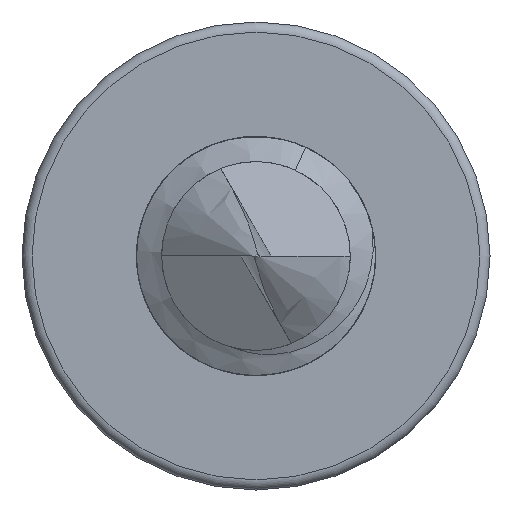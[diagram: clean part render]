
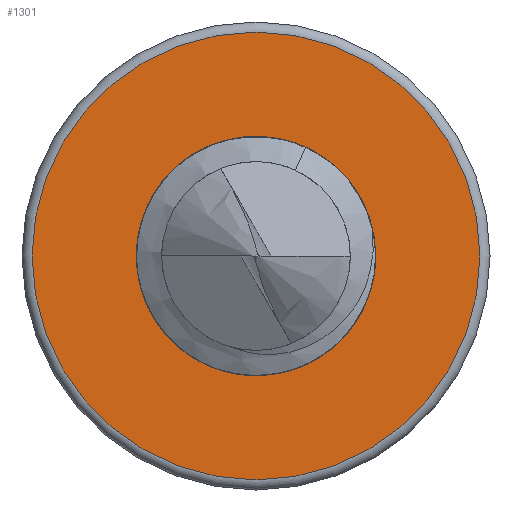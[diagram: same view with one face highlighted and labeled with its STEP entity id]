
A CAD part, front view. The second image highlights one B-rep face of the part: STEP entity #1301.
In plain terms, the highlighted planar face has unit normal (0, -1, 0).
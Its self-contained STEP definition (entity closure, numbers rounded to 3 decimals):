
#16=FACE_BOUND('',#212,.T.);
#54=PLANE('',#1440);
#135=FACE_OUTER_BOUND('',#211,.T.);
#211=EDGE_LOOP('',(#1132));
#212=EDGE_LOOP('',(#1133));
#261=CIRCLE('',#1427,2.375);
#269=CIRCLE('',#1441,4.45);
#600=VERTEX_POINT('',#3206);
#614=VERTEX_POINT('',#3365);
#775=EDGE_CURVE('',#600,#600,#261,.T.);
#797=EDGE_CURVE('',#614,#614,#269,.T.);
#1132=ORIENTED_EDGE('',*,*,#797,.F.);
#1133=ORIENTED_EDGE('',*,*,#775,.T.);
#1301=ADVANCED_FACE('',(#135,#16),#54,.F.);
#1427=AXIS2_PLACEMENT_3D('',#3207,#1716,#1717);
#1440=AXIS2_PLACEMENT_3D('',#3364,#1748,#1749);
#1441=AXIS2_PLACEMENT_3D('',#3366,#1750,#1751);
#1716=DIRECTION('center_axis',(0.,1.,0.));
#1717=DIRECTION('ref_axis',(-1.,0.,0.));
#1748=DIRECTION('center_axis',(0.,1.,0.));
#1749=DIRECTION('ref_axis',(0.,0.,1.));
#1750=DIRECTION('center_axis',(0.,1.,0.));
#1751=DIRECTION('ref_axis',(-1.,0.,0.));
#3206=CARTESIAN_POINT('',(2.375,22.,0.));
#3207=CARTESIAN_POINT('Origin',(0.,22.,0.));
#3364=CARTESIAN_POINT('Origin',(0.,22.,0.));
#3365=CARTESIAN_POINT('',(0.,22.,-4.45));
#3366=CARTESIAN_POINT('Origin',(0.,22.,0.));
